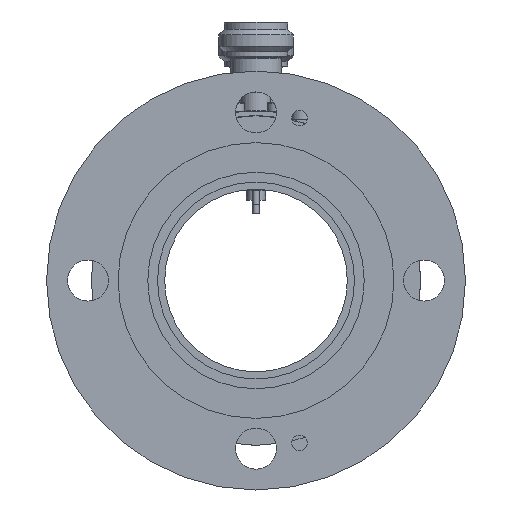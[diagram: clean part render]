
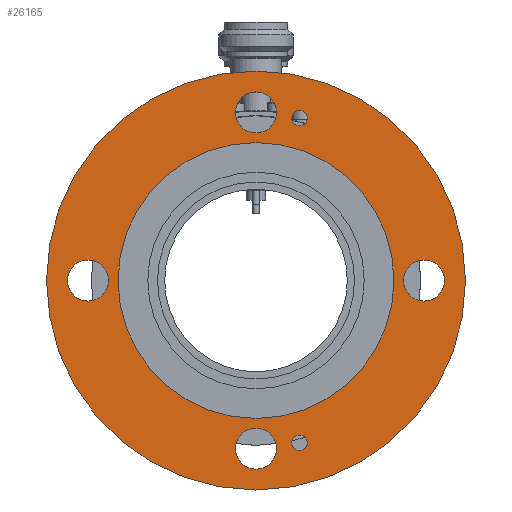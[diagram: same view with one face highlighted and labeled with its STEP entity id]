
A CAD part, front view. The second image highlights one B-rep face of the part: STEP entity #26165.
In plain terms, the highlighted planar face has unit normal (0, -1, 0).
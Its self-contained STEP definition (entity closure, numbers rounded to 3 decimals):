
#1619=CIRCLE('',#27799,44.5);
#1621=CIRCLE('',#27802,29.3);
#1622=CIRCLE('',#27803,4.355);
#1623=CIRCLE('',#27804,4.355);
#1624=CIRCLE('',#27805,4.355);
#1625=CIRCLE('',#27806,4.355);
#1626=CIRCLE('',#27807,1.64);
#1627=CIRCLE('',#27808,1.64);
#4065=ORIENTED_EDGE('',*,*,#7650,.F.);
#4066=ORIENTED_EDGE('',*,*,#7652,.T.);
#4067=ORIENTED_EDGE('',*,*,#7653,.F.);
#4068=ORIENTED_EDGE('',*,*,#7654,.F.);
#4069=ORIENTED_EDGE('',*,*,#7655,.F.);
#4070=ORIENTED_EDGE('',*,*,#7656,.F.);
#4071=ORIENTED_EDGE('',*,*,#7657,.F.);
#4072=ORIENTED_EDGE('',*,*,#7658,.F.);
#7650=EDGE_CURVE('',#9631,#9631,#1619,.T.);
#7652=EDGE_CURVE('',#9633,#9633,#1621,.T.);
#7653=EDGE_CURVE('',#9634,#9634,#1622,.T.);
#7654=EDGE_CURVE('',#9635,#9635,#1623,.T.);
#7655=EDGE_CURVE('',#9636,#9636,#1624,.T.);
#7656=EDGE_CURVE('',#9637,#9637,#1625,.T.);
#7657=EDGE_CURVE('',#9638,#9638,#1626,.T.);
#7658=EDGE_CURVE('',#9639,#9639,#1627,.T.);
#9631=VERTEX_POINT('',#37215);
#9633=VERTEX_POINT('',#37220);
#9634=VERTEX_POINT('',#37222);
#9635=VERTEX_POINT('',#37224);
#9636=VERTEX_POINT('',#37226);
#9637=VERTEX_POINT('',#37228);
#9638=VERTEX_POINT('',#37230);
#9639=VERTEX_POINT('',#37232);
#12833=EDGE_LOOP('',(#4065));
#12834=EDGE_LOOP('',(#4066));
#12835=EDGE_LOOP('',(#4067));
#12836=EDGE_LOOP('',(#4068));
#12837=EDGE_LOOP('',(#4069));
#12838=EDGE_LOOP('',(#4070));
#12839=EDGE_LOOP('',(#4071));
#12840=EDGE_LOOP('',(#4072));
#14823=FACE_BOUND('',#12833,.T.);
#14824=FACE_BOUND('',#12834,.T.);
#14825=FACE_BOUND('',#12835,.T.);
#14826=FACE_BOUND('',#12836,.T.);
#14827=FACE_BOUND('',#12837,.T.);
#14828=FACE_BOUND('',#12838,.T.);
#14829=FACE_BOUND('',#12839,.T.);
#14830=FACE_BOUND('',#12840,.T.);
#16495=PLANE('',#27801);
#26165=ADVANCED_FACE('',(#14823,#14824,#14825,#14826,#14827,#14828,#14829,
#14830),#16495,.F.);
#27799=AXIS2_PLACEMENT_3D('',#37214,#31146,#31147);
#27801=AXIS2_PLACEMENT_3D('',#37218,#31150,#31151);
#27802=AXIS2_PLACEMENT_3D('',#37219,#31152,#31153);
#27803=AXIS2_PLACEMENT_3D('',#37221,#31154,#31155);
#27804=AXIS2_PLACEMENT_3D('',#37223,#31156,#31157);
#27805=AXIS2_PLACEMENT_3D('',#37225,#31158,#31159);
#27806=AXIS2_PLACEMENT_3D('',#37227,#31160,#31161);
#27807=AXIS2_PLACEMENT_3D('',#37229,#31162,#31163);
#27808=AXIS2_PLACEMENT_3D('',#37231,#31164,#31165);
#31146=DIRECTION('',(0.,1.,0.));
#31147=DIRECTION('',(-1.,0.,0.));
#31150=DIRECTION('',(0.,1.,0.));
#31151=DIRECTION('',(-1.,0.,0.));
#31152=DIRECTION('',(0.,1.,0.));
#31153=DIRECTION('',(-1.,0.,0.));
#31154=DIRECTION('',(0.,-1.,0.));
#31155=DIRECTION('',(1.,0.,0.));
#31156=DIRECTION('',(0.,-1.,0.));
#31157=DIRECTION('',(1.,0.,0.));
#31158=DIRECTION('',(0.,-1.,0.));
#31159=DIRECTION('',(1.,0.,0.));
#31160=DIRECTION('',(0.,-1.,0.));
#31161=DIRECTION('',(1.,0.,0.));
#31162=DIRECTION('',(0.,-1.,0.));
#31163=DIRECTION('',(1.,0.,0.));
#31164=DIRECTION('',(0.,-1.,0.));
#31165=DIRECTION('',(1.,0.,0.));
#37214=CARTESIAN_POINT('',(0.,-54.9,0.));
#37215=CARTESIAN_POINT('',(-44.5,-54.9,0.));
#37218=CARTESIAN_POINT('',(0.,-54.9,0.));
#37219=CARTESIAN_POINT('',(0.,-54.9,0.));
#37220=CARTESIAN_POINT('',(-29.3,-54.9,0.));
#37221=CARTESIAN_POINT('',(0.,-54.9,35.71));
#37222=CARTESIAN_POINT('',(4.355,-54.9,35.71));
#37223=CARTESIAN_POINT('',(-35.71,-54.9,0.));
#37224=CARTESIAN_POINT('',(-31.355,-54.9,0.));
#37225=CARTESIAN_POINT('',(0.,-54.9,-35.71));
#37226=CARTESIAN_POINT('',(4.355,-54.9,-35.71));
#37227=CARTESIAN_POINT('',(35.71,-54.9,0.));
#37228=CARTESIAN_POINT('',(40.065,-54.9,0.));
#37229=CARTESIAN_POINT('',(9.242,-54.9,-34.493));
#37230=CARTESIAN_POINT('',(10.882,-54.9,-34.493));
#37231=CARTESIAN_POINT('',(9.242,-54.9,34.493));
#37232=CARTESIAN_POINT('',(10.882,-54.9,34.493));
